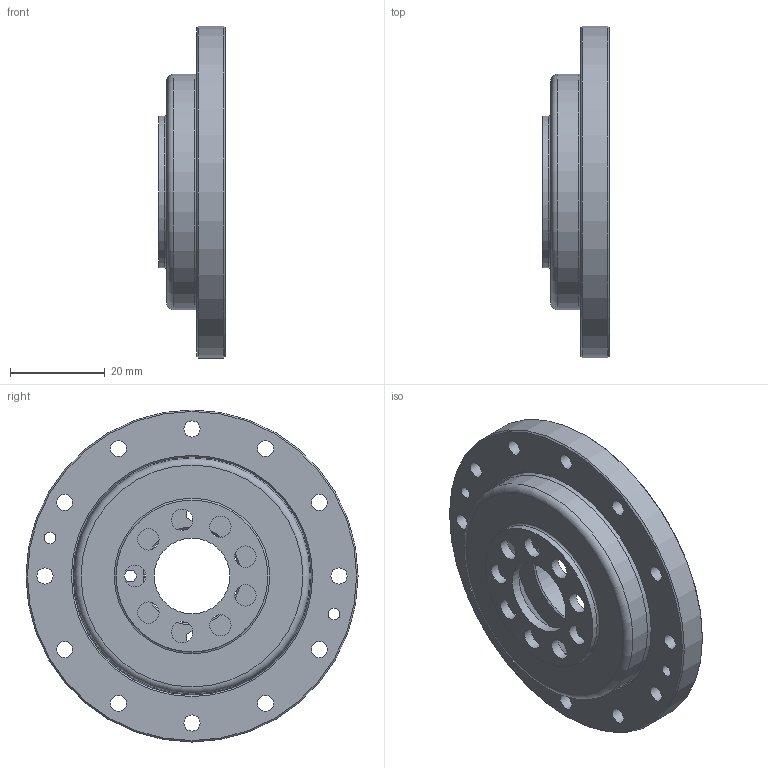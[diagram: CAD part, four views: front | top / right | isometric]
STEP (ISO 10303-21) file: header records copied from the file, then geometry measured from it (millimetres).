
FILE_DESCRIPTION (( 'STEP AP203' ), '1' );
FILE_NAME ('FCD-20-XXX-C.STEP', '2025-03-18T02:18:10', ( '微软用户' ), ( '微软中国' ), 'SwSTEP 2.0', 'SolidWorks 2016', '' );
FILE_SCHEMA (( 'CONFIG_CONTROL_DESIGN' ));
Length unit declared in the file: millimetre
Products named in the file (1): FCD-20-XXX-C
Bounding box: 14 x 70 x 70 mm (x, y, z)
Volume: 20158 mm3; surface area: 24520 mm2
Topology: 30 solids, 30 shells, 228 faces, 574 edges, 377 vertices
Faces by surface type: cylinder 107, plane 75, sphere 23, cone 13, torus 10
Full cylindrical faces by diameter (mm): 2.5 x6, 3.4 x12, 4.5 x9, 6.5 x12, 16 x1, 20 x1, 32 x1, 35.155 x1, 35.555 x2, 38.555 x1, 39.318 x2, 40 x1, 43 x1, 45 x1, 45.474 x2, 48.668 x2, 49.67 x1, 50.266 x1, 51.2 x1, 70 x1
Entity records: 6105 total; most frequent: DIRECTION 1192, CARTESIAN_POINT 963, ORIENTED_EDGE 826, AXIS2_PLACEMENT_3D 550, EDGE_CURVE 413, EDGE_LOOP 370, CIRCLE 321, VERTEX_POINT 321
